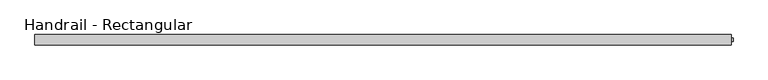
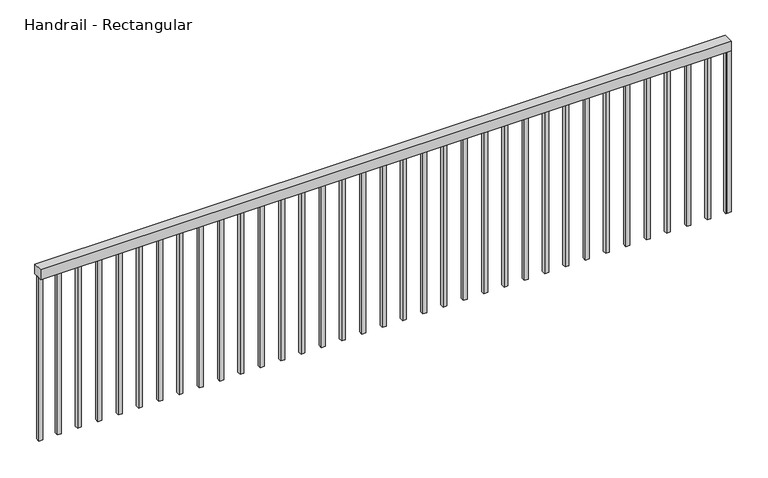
"""IFC4 building model written with IfcOpenShell, lengths in millimetres: railing geometry, Handrail - Rectangular."""

from ifc_helpers import new_model, si_unit, frame, origin, place, context, project, spatial, polyline, outline, extrude, source, transform, mapped, element, save


def handrail_rectangular_8cf19ee7(model_context):
    return source(origin(), model_context, "Body", "SweptSolid", [
        extrude(outline(polyline([(-7973.2053686, 6951.1758812), (-7973.2053686, 7001.9758812), (-4518.0245688, 7001.9758812), (-4518.0245688, 6951.1758812), (-7973.2053686, 6951.1758812)])), frame((0.0, 0.0, 10007.6), z_axis=(0.0, 0.0, 1.0), x_axis=(1.0, 0.0, 0.0)), (0.0, 0.0, 1.0), 50.8),
        extrude(outline(polyline([(-4528.3303686, 6967.0508812), (-4528.3303686, 6986.1008812), (-4509.2803686, 6986.1008812), (-4509.2803686, 6967.0508812), (-4528.3303686, 6967.0508812)])), frame((0.0, 0.0, 9144.0), z_axis=(0.0, 0.0, 1.0), x_axis=(1.0, 0.0, 0.0)), (0.0, 0.0, 1.0), 863.6),
        extrude(outline(polyline([(-4629.9303686, 6967.0508812), (-4629.9303686, 6986.1008812), (-4610.8803686, 6986.1008812), (-4610.8803686, 6967.0508812), (-4629.9303686, 6967.0508812)])), frame((0.0, 0.0, 9144.0), z_axis=(0.0, 0.0, 1.0), x_axis=(1.0, 0.0, 0.0)), (0.0, 0.0, 1.0), 863.6),
        extrude(outline(polyline([(-4731.5303686, 6967.0508812), (-4731.5303686, 6986.1008812), (-4712.4803686, 6986.1008812), (-4712.4803686, 6967.0508812), (-4731.5303686, 6967.0508812)])), frame((0.0, 0.0, 9144.0), z_axis=(0.0, 0.0, 1.0), x_axis=(1.0, 0.0, 0.0)), (0.0, 0.0, 1.0), 863.6),
        extrude(outline(polyline([(-4833.1303686, 6967.0508812), (-4833.1303686, 6986.1008812), (-4814.0803686, 6986.1008812), (-4814.0803686, 6967.0508812), (-4833.1303686, 6967.0508812)])), frame((0.0, 0.0, 9144.0), z_axis=(0.0, 0.0, 1.0), x_axis=(1.0, 0.0, 0.0)), (0.0, 0.0, 1.0), 863.6),
        extrude(outline(polyline([(-4934.7303686, 6967.0508812), (-4934.7303686, 6986.1008812), (-4915.6803686, 6986.1008812), (-4915.6803686, 6967.0508812), (-4934.7303686, 6967.0508812)])), frame((0.0, 0.0, 9144.0), z_axis=(0.0, 0.0, 1.0), x_axis=(1.0, 0.0, 0.0)), (0.0, 0.0, 1.0), 863.6),
        extrude(outline(polyline([(-5036.3303686, 6967.0508812), (-5036.3303686, 6986.1008812), (-5017.2803686, 6986.1008812), (-5017.2803686, 6967.0508812), (-5036.3303686, 6967.0508812)])), frame((0.0, 0.0, 9144.0), z_axis=(0.0, 0.0, 1.0), x_axis=(1.0, 0.0, 0.0)), (0.0, 0.0, 1.0), 863.6),
        extrude(outline(polyline([(-5137.9303686, 6967.0508812), (-5137.9303686, 6986.1008812), (-5118.8803686, 6986.1008812), (-5118.8803686, 6967.0508812), (-5137.9303686, 6967.0508812)])), frame((0.0, 0.0, 9144.0), z_axis=(0.0, 0.0, 1.0), x_axis=(1.0, 0.0, 0.0)), (0.0, 0.0, 1.0), 863.6),
        extrude(outline(polyline([(-5239.5303686, 6967.0508812), (-5239.5303686, 6986.1008812), (-5220.4803686, 6986.1008812), (-5220.4803686, 6967.0508812), (-5239.5303686, 6967.0508812)])), frame((0.0, 0.0, 9144.0), z_axis=(0.0, 0.0, 1.0), x_axis=(1.0, 0.0, 0.0)), (0.0, 0.0, 1.0), 863.6),
        extrude(outline(polyline([(-5341.1303686, 6967.0508812), (-5341.1303686, 6986.1008812), (-5322.0803686, 6986.1008812), (-5322.0803686, 6967.0508812), (-5341.1303686, 6967.0508812)])), frame((0.0, 0.0, 9144.0), z_axis=(0.0, 0.0, 1.0), x_axis=(1.0, 0.0, 0.0)), (0.0, 0.0, 1.0), 863.6),
        extrude(outline(polyline([(-5442.7303686, 6967.0508812), (-5442.7303686, 6986.1008812), (-5423.6803686, 6986.1008812), (-5423.6803686, 6967.0508812), (-5442.7303686, 6967.0508812)])), frame((0.0, 0.0, 9144.0), z_axis=(0.0, 0.0, 1.0), x_axis=(1.0, 0.0, 0.0)), (0.0, 0.0, 1.0), 863.6),
        extrude(outline(polyline([(-5544.3303686, 6967.0508812), (-5544.3303686, 6986.1008812), (-5525.2803686, 6986.1008812), (-5525.2803686, 6967.0508812), (-5544.3303686, 6967.0508812)])), frame((0.0, 0.0, 9144.0), z_axis=(0.0, 0.0, 1.0), x_axis=(1.0, 0.0, 0.0)), (0.0, 0.0, 1.0), 863.6),
        extrude(outline(polyline([(-5645.9303686, 6967.0508812), (-5645.9303686, 6986.1008812), (-5626.8803686, 6986.1008812), (-5626.8803686, 6967.0508812), (-5645.9303686, 6967.0508812)])), frame((0.0, 0.0, 9144.0), z_axis=(0.0, 0.0, 1.0), x_axis=(1.0, 0.0, 0.0)), (0.0, 0.0, 1.0), 863.6),
        extrude(outline(polyline([(-5747.5303686, 6967.0508812), (-5747.5303686, 6986.1008812), (-5728.4803686, 6986.1008812), (-5728.4803686, 6967.0508812), (-5747.5303686, 6967.0508812)])), frame((0.0, 0.0, 9144.0), z_axis=(0.0, 0.0, 1.0), x_axis=(1.0, 0.0, 0.0)), (0.0, 0.0, 1.0), 863.6),
        extrude(outline(polyline([(-5849.1303686, 6967.0508812), (-5849.1303686, 6986.1008812), (-5830.0803686, 6986.1008812), (-5830.0803686, 6967.0508812), (-5849.1303686, 6967.0508812)])), frame((0.0, 0.0, 9144.0), z_axis=(0.0, 0.0, 1.0), x_axis=(1.0, 0.0, 0.0)), (0.0, 0.0, 1.0), 863.6),
        extrude(outline(polyline([(-5950.7303686, 6967.0508812), (-5950.7303686, 6986.1008812), (-5931.6803686, 6986.1008812), (-5931.6803686, 6967.0508812), (-5950.7303686, 6967.0508812)])), frame((0.0, 0.0, 9144.0), z_axis=(0.0, 0.0, 1.0), x_axis=(1.0, 0.0, 0.0)), (0.0, 0.0, 1.0), 863.6),
        extrude(outline(polyline([(-6052.3303686, 6967.0508812), (-6052.3303686, 6986.1008812), (-6033.2803686, 6986.1008812), (-6033.2803686, 6967.0508812), (-6052.3303686, 6967.0508812)])), frame((0.0, 0.0, 9144.0), z_axis=(0.0, 0.0, 1.0), x_axis=(1.0, 0.0, 0.0)), (0.0, 0.0, 1.0), 863.6),
        extrude(outline(polyline([(-6153.9303686, 6967.0508812), (-6153.9303686, 6986.1008812), (-6134.8803686, 6986.1008812), (-6134.8803686, 6967.0508812), (-6153.9303686, 6967.0508812)])), frame((0.0, 0.0, 9144.0), z_axis=(0.0, 0.0, 1.0), x_axis=(1.0, 0.0, 0.0)), (0.0, 0.0, 1.0), 863.6),
        extrude(outline(polyline([(-6255.5303686, 6967.0508812), (-6255.5303686, 6986.1008812), (-6236.4803686, 6986.1008812), (-6236.4803686, 6967.0508812), (-6255.5303686, 6967.0508812)])), frame((0.0, 0.0, 9144.0), z_axis=(0.0, 0.0, 1.0), x_axis=(1.0, 0.0, 0.0)), (0.0, 0.0, 1.0), 863.6),
        extrude(outline(polyline([(-6357.1303686, 6967.0508812), (-6357.1303686, 6986.1008812), (-6338.0803686, 6986.1008812), (-6338.0803686, 6967.0508812), (-6357.1303686, 6967.0508812)])), frame((0.0, 0.0, 9144.0), z_axis=(0.0, 0.0, 1.0), x_axis=(1.0, 0.0, 0.0)), (0.0, 0.0, 1.0), 863.6),
        extrude(outline(polyline([(-6458.7303686, 6967.0508812), (-6458.7303686, 6986.1008812), (-6439.6803686, 6986.1008812), (-6439.6803686, 6967.0508812), (-6458.7303686, 6967.0508812)])), frame((0.0, 0.0, 9144.0), z_axis=(0.0, 0.0, 1.0), x_axis=(1.0, 0.0, 0.0)), (0.0, 0.0, 1.0), 863.6),
        extrude(outline(polyline([(-6560.3303686, 6967.0508812), (-6560.3303686, 6986.1008812), (-6541.2803686, 6986.1008812), (-6541.2803686, 6967.0508812), (-6560.3303686, 6967.0508812)])), frame((0.0, 0.0, 9144.0), z_axis=(0.0, 0.0, 1.0), x_axis=(1.0, 0.0, 0.0)), (0.0, 0.0, 1.0), 863.6),
        extrude(outline(polyline([(-6661.9303686, 6967.0508812), (-6661.9303686, 6986.1008812), (-6642.8803686, 6986.1008812), (-6642.8803686, 6967.0508812), (-6661.9303686, 6967.0508812)])), frame((0.0, 0.0, 9144.0), z_axis=(0.0, 0.0, 1.0), x_axis=(1.0, 0.0, 0.0)), (0.0, 0.0, 1.0), 863.6),
        extrude(outline(polyline([(-6763.5303686, 6967.0508812), (-6763.5303686, 6986.1008812), (-6744.4803686, 6986.1008812), (-6744.4803686, 6967.0508812), (-6763.5303686, 6967.0508812)])), frame((0.0, 0.0, 9144.0), z_axis=(0.0, 0.0, 1.0), x_axis=(1.0, 0.0, 0.0)), (0.0, 0.0, 1.0), 863.6),
        extrude(outline(polyline([(-6865.1303686, 6967.0508812), (-6865.1303686, 6986.1008812), (-6846.0803686, 6986.1008812), (-6846.0803686, 6967.0508812), (-6865.1303686, 6967.0508812)])), frame((0.0, 0.0, 9144.0), z_axis=(0.0, 0.0, 1.0), x_axis=(1.0, 0.0, 0.0)), (0.0, 0.0, 1.0), 863.6),
        extrude(outline(polyline([(-6966.7303686, 6967.0508812), (-6966.7303686, 6986.1008812), (-6947.6803686, 6986.1008812), (-6947.6803686, 6967.0508812), (-6966.7303686, 6967.0508812)])), frame((0.0, 0.0, 9144.0), z_axis=(0.0, 0.0, 1.0), x_axis=(1.0, 0.0, 0.0)), (0.0, 0.0, 1.0), 863.6),
        extrude(outline(polyline([(-7068.3303686, 6967.0508812), (-7068.3303686, 6986.1008812), (-7049.2803686, 6986.1008812), (-7049.2803686, 6967.0508812), (-7068.3303686, 6967.0508812)])), frame((0.0, 0.0, 9144.0), z_axis=(0.0, 0.0, 1.0), x_axis=(1.0, 0.0, 0.0)), (0.0, 0.0, 1.0), 863.6),
        extrude(outline(polyline([(-7169.9303686, 6967.0508812), (-7169.9303686, 6986.1008812), (-7150.8803686, 6986.1008812), (-7150.8803686, 6967.0508812), (-7169.9303686, 6967.0508812)])), frame((0.0, 0.0, 9144.0), z_axis=(0.0, 0.0, 1.0), x_axis=(1.0, 0.0, 0.0)), (0.0, 0.0, 1.0), 863.6),
        extrude(outline(polyline([(-7271.5303686, 6967.0508812), (-7271.5303686, 6986.1008812), (-7252.4803686, 6986.1008812), (-7252.4803686, 6967.0508812), (-7271.5303686, 6967.0508812)])), frame((0.0, 0.0, 9144.0), z_axis=(0.0, 0.0, 1.0), x_axis=(1.0, 0.0, 0.0)), (0.0, 0.0, 1.0), 863.6),
        extrude(outline(polyline([(-7373.1303686, 6967.0508812), (-7373.1303686, 6986.1008812), (-7354.0803686, 6986.1008812), (-7354.0803686, 6967.0508812), (-7373.1303686, 6967.0508812)])), frame((0.0, 0.0, 9144.0), z_axis=(0.0, 0.0, 1.0), x_axis=(1.0, 0.0, 0.0)), (0.0, 0.0, 1.0), 863.6),
        extrude(outline(polyline([(-7474.7303686, 6967.0508812), (-7474.7303686, 6986.1008812), (-7455.6803686, 6986.1008812), (-7455.6803686, 6967.0508812), (-7474.7303686, 6967.0508812)])), frame((0.0, 0.0, 9144.0), z_axis=(0.0, 0.0, 1.0), x_axis=(1.0, 0.0, 0.0)), (0.0, 0.0, 1.0), 863.6),
        extrude(outline(polyline([(-7576.3303686, 6967.0508812), (-7576.3303686, 6986.1008812), (-7557.2803686, 6986.1008812), (-7557.2803686, 6967.0508812), (-7576.3303686, 6967.0508812)])), frame((0.0, 0.0, 9144.0), z_axis=(0.0, 0.0, 1.0), x_axis=(1.0, 0.0, 0.0)), (0.0, 0.0, 1.0), 863.6),
        extrude(outline(polyline([(-7677.9303686, 6967.0508812), (-7677.9303686, 6986.1008812), (-7658.8803686, 6986.1008812), (-7658.8803686, 6967.0508812), (-7677.9303686, 6967.0508812)])), frame((0.0, 0.0, 9144.0), z_axis=(0.0, 0.0, 1.0), x_axis=(1.0, 0.0, 0.0)), (0.0, 0.0, 1.0), 863.6),
        extrude(outline(polyline([(-7779.5303686, 6967.0508812), (-7779.5303686, 6986.1008812), (-7760.4803686, 6986.1008812), (-7760.4803686, 6967.0508812), (-7779.5303686, 6967.0508812)])), frame((0.0, 0.0, 9144.0), z_axis=(0.0, 0.0, 1.0), x_axis=(1.0, 0.0, 0.0)), (0.0, 0.0, 1.0), 863.6),
        extrude(outline(polyline([(-7881.1303686, 6967.0508812), (-7881.1303686, 6986.1008812), (-7862.0803686, 6986.1008812), (-7862.0803686, 6967.0508812), (-7881.1303686, 6967.0508812)])), frame((0.0, 0.0, 9144.0), z_axis=(0.0, 0.0, 1.0), x_axis=(1.0, 0.0, 0.0)), (0.0, 0.0, 1.0), 863.6),
        extrude(outline(polyline([(-4537.0745688, 6967.0508812), (-4537.0745688, 6986.1008812), (-4518.0245688, 6986.1008812), (-4518.0245688, 6967.0508812), (-4537.0745688, 6967.0508812)])), frame((0.0, 0.0, 9144.0), z_axis=(0.0, 0.0, 1.0), x_axis=(1.0, 0.0, 0.0)), (0.0, 0.0, 1.0), 863.6),
        extrude(outline(polyline([(-7973.2053686, 6967.0508812), (-7973.2053686, 6986.1008812), (-7954.1553686, 6986.1008812), (-7954.1553686, 6967.0508812), (-7973.2053686, 6967.0508812)])), frame((0.0, 0.0, 9144.0), z_axis=(0.0, 0.0, 1.0), x_axis=(1.0, 0.0, 0.0)), (0.0, 0.0, 1.0), 863.6),
    ])


if __name__ == "__main__":
    model = new_model("IFC4")
    model_context = context("Model", 3, world=origin())
    ifc_project = project(units=[si_unit("LENGTHUNIT", "METRE", prefix="MILLI")], contexts=[model_context])
    site = spatial("IfcSite", under=ifc_project)
    building = spatial("IfcBuilding", under=site)
    placement = place(None, origin())
    handrail_rectangular_shape = handrail_rectangular_8cf19ee7(model_context)
    element("IfcRailing", 1, ObjectType="Handrail - Rectangular", at=placement, inside=building, context=model_context, shape_type="MappedRepresentation", body=[
        mapped(handrail_rectangular_shape, transform((0.0, 0.0, 0.0), x_axis=(1.0, 0.0, 0.0), y_axis=(0.0, 1.0, 0.0), z_axis=(0.0, 0.0, 1.0))),
    ])
    save(model, "model.ifc")
